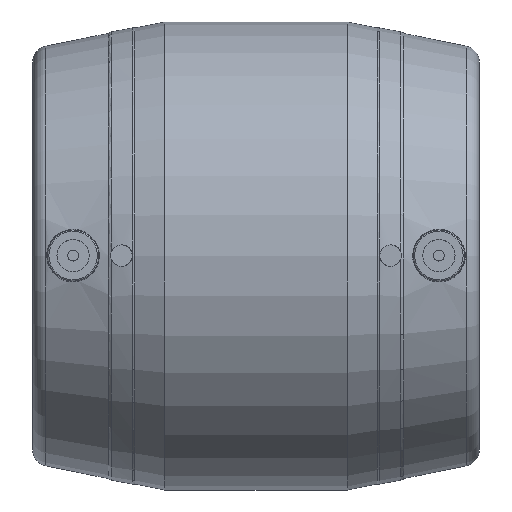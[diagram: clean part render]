
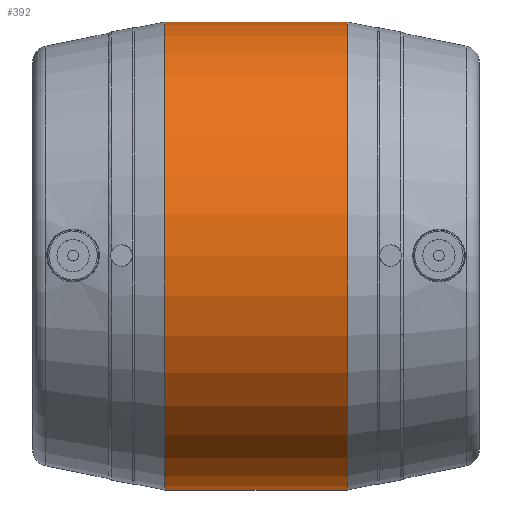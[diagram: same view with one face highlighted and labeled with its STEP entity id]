
A CAD part, top view. The second image highlights one B-rep face of the part: STEP entity #392.
In plain terms, the highlighted cylindrical face has radius 87 mm (diameter 174 mm), a full revolution.
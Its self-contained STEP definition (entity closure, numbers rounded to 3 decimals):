
#31=CYLINDRICAL_SURFACE('',#453,87.);
#73=ORIENTED_EDGE('',*,*,#145,.T.);
#74=ORIENTED_EDGE('',*,*,#146,.T.);
#145=EDGE_CURVE('',#183,#183,#216,.F.);
#146=EDGE_CURVE('',#184,#184,#217,.T.);
#183=VERTEX_POINT('',#726);
#184=VERTEX_POINT('',#728);
#216=CIRCLE('',#454,87.);
#217=CIRCLE('',#455,87.);
#254=EDGE_LOOP('',(#73));
#255=EDGE_LOOP('',(#74));
#324=FACE_BOUND('',#254,.T.);
#325=FACE_BOUND('',#255,.T.);
#392=ADVANCED_FACE('',(#324,#325),#31,.T.);
#453=AXIS2_PLACEMENT_3D('',#724,#543,#544);
#454=AXIS2_PLACEMENT_3D('',#725,#545,#546);
#455=AXIS2_PLACEMENT_3D('',#727,#547,#548);
#543=DIRECTION('',(-1.,0.,0.));
#544=DIRECTION('',(0.,0.,1.));
#545=DIRECTION('',(1.,0.,0.));
#546=DIRECTION('',(0.,0.,-1.));
#547=DIRECTION('',(1.,0.,0.));
#548=DIRECTION('',(0.,0.,-1.));
#724=CARTESIAN_POINT('',(-60.,0.,0.));
#725=CARTESIAN_POINT('',(33.899,0.,0.));
#726=CARTESIAN_POINT('',(33.899,0.,-87.));
#727=CARTESIAN_POINT('',(-33.899,0.,0.));
#728=CARTESIAN_POINT('',(-33.899,0.,-87.));
